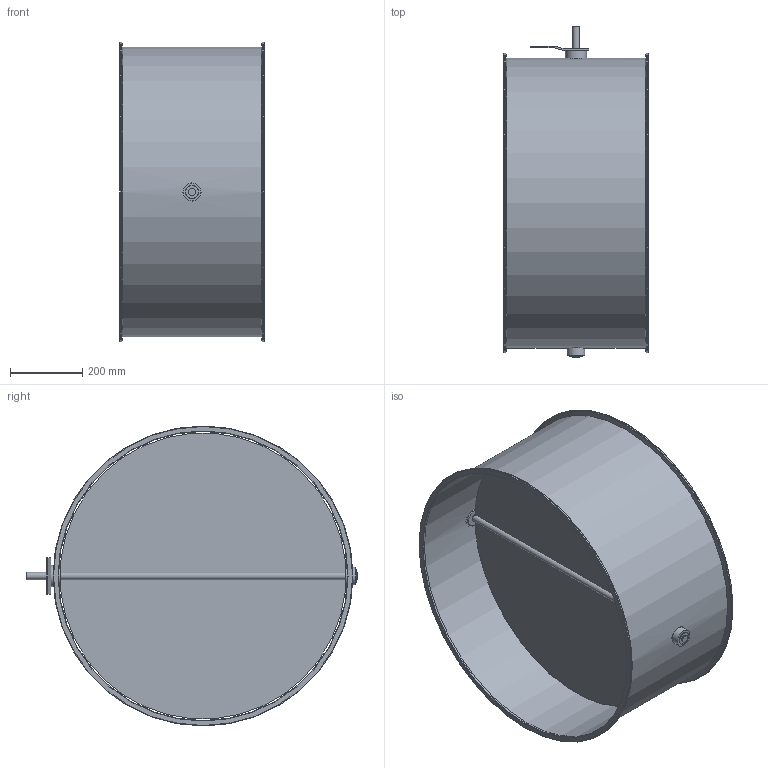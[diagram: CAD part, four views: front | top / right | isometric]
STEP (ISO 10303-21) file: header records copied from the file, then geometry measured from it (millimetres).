
FILE_DESCRIPTION(/* description */ (''),/* implementation_level */ '2;1');
FILE_NAME(/* name */ 'EA115-80B__800_L440_Belimo_Typ_SM.stp',/* time_stamp */ '2017-12-06T16:22:50+01:00',/* author */ (''),/* organization */ (''),/* preprocessor_version */ 'ST-DEVELOPER v11',/* originating_system */ 'SIEMENS UGS NX 6.0',/* authorisation */ '');
FILE_SCHEMA (('CONFIG_CONTROL_DESIGN'));
Length unit declared in the file: millimetre
Products named in the file (1): gars18E2j2j4
Bounding box: 400 x 915 x 830 mm (x, y, z)
Volume: 2747977.6 mm3; surface area: 3255372 mm2
Topology: 8 solids, 8 shells, 79 faces, 167 edges, 106 vertices
Faces by surface type: plane 36, cylinder 35, torus 6, cone 2
Full cylindrical faces by diameter (mm): 8.1 x7, 20 x3, 35 x3, 35.85 x2, 36 x2, 49 x1, 50 x2, 59 x1, 800 x1, 802.4 x1, 830 x2
Entity records: 2094 total; most frequent: CARTESIAN_POINT 400, DIRECTION 352, ORIENTED_EDGE 248, AXIS2_PLACEMENT_3D 152, EDGE_LOOP 144, EDGE_CURVE 124, FACE_BOUND 114, VERTEX_POINT 96
